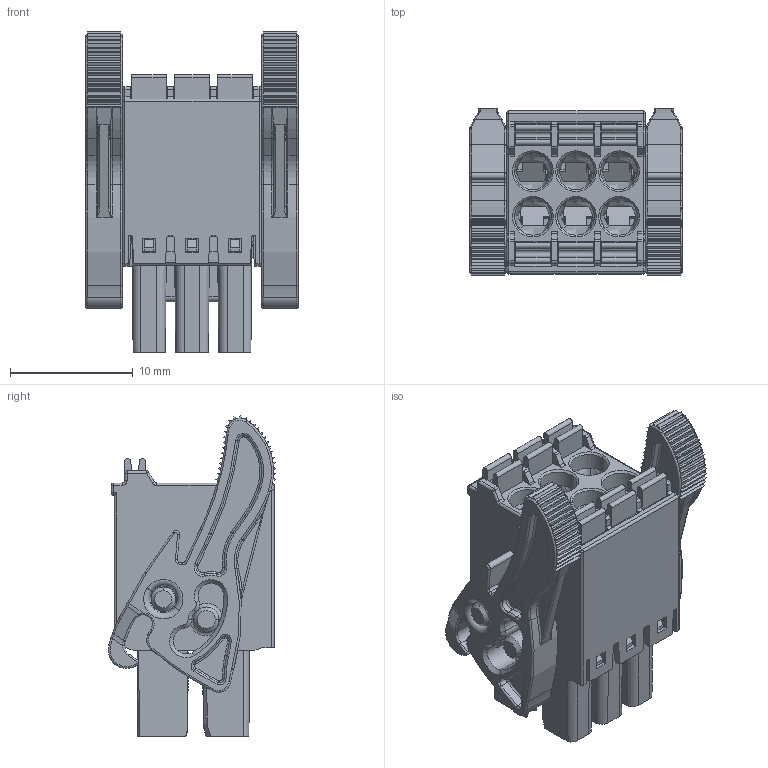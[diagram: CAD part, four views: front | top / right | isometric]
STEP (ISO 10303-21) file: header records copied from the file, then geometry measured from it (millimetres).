
FILE_DESCRIPTION((''),'2;1');
FILE_NAME('NL-05-ASM_INST','2021-05-13T',('renkang.li'),(''),'CREO PARAMETRIC BY PTC INC, 2016260','CREO PARAMETRIC BY PTC INC, 2016260','');
FILE_SCHEMA(('CONFIG_CONTROL_DESIGN'));
Products named in the file (1): NL-05-ASM_INST
Bounding box: 17.3 x 13.63 x 26.08 mm (x, y, z)
Volume: 2124.7 mm3; surface area: 6560.2 mm2
Topology: 1 solids, 1 shells, 2757 faces, 7860 edges, 5004 vertices
Faces by surface type: plane 1515, cylinder 789, torus 248, cone 116, bspline 75, sphere 14
Entity records: 94092 total; most frequent: CARTESIAN_POINT 21530, ORIENTED_EDGE 15692, DIRECTION 15019, EDGE_CURVE 7846, AXIS2_PLACEMENT_3D 5022, VERTEX_POINT 5004, VECTOR 4975, LINE 4975
